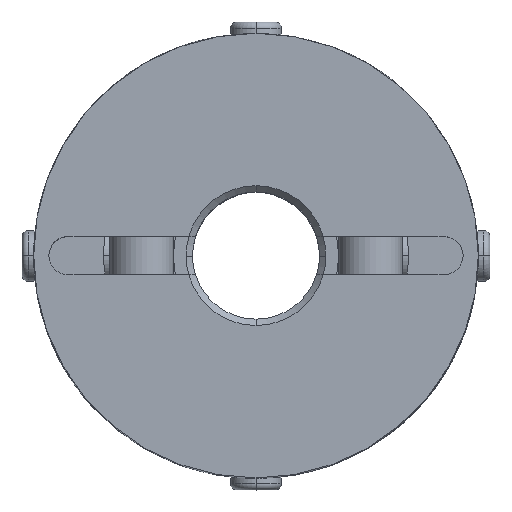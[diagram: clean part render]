
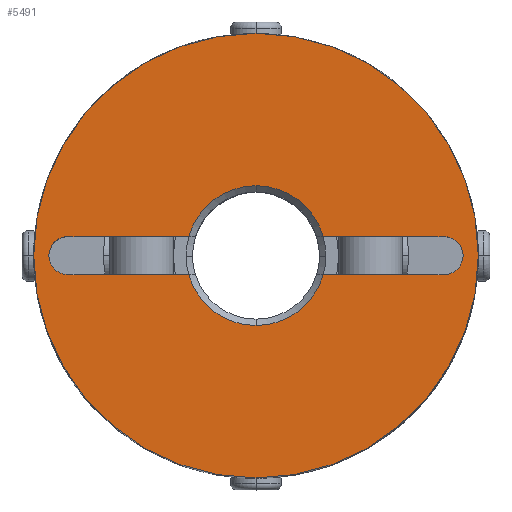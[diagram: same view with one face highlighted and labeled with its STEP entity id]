
A CAD part, top view. The second image highlights one B-rep face of the part: STEP entity #5491.
In plain terms, the highlighted planar face has unit normal (0, 0, 1).
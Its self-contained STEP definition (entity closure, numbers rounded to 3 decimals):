
#981=CARTESIAN_POINT('',(0.,17.5,17.5));
#982=VERTEX_POINT('',#981);
#989=CARTESIAN_POINT('',(0.,-17.5,17.5));
#990=VERTEX_POINT('',#989);
#991=CARTESIAN_POINT('',(0.0,0.0,17.5));
#992=DIRECTION('',(0.0,0.0,-1.0));
#993=DIRECTION('',(0.0,-1.0,0.0));
#994=AXIS2_PLACEMENT_3D('',#991,#992,#993);
#995=CIRCLE('',#994,17.5);
#996=EDGE_CURVE('',#982,#990,#995,.T.);
#1311=CARTESIAN_POINT('',(15.861,1.061,17.5));
#1312=VERTEX_POINT('',#1311);
#1328=CARTESIAN_POINT('',(14.8,-1.5,17.5));
#1329=VERTEX_POINT('',#1328);
#1336=CARTESIAN_POINT('',(14.8,0.,17.5));
#1337=DIRECTION('',(0.0,0.0,1.0));
#1338=DIRECTION('',(0.707,-0.707,0.0));
#1339=AXIS2_PLACEMENT_3D('',#1336,#1337,#1338);
#1340=CIRCLE('',#1339,1.5);
#1341=EDGE_CURVE('',#1329,#1312,#1340,.T.);
#1353=CARTESIAN_POINT('',(-15.861,-1.061,17.5));
#1354=VERTEX_POINT('',#1353);
#1370=CARTESIAN_POINT('',(-14.8,1.5,17.5));
#1371=VERTEX_POINT('',#1370);
#1378=CARTESIAN_POINT('',(-14.8,0.,17.5));
#1379=DIRECTION('',(0.0,0.0,1.0));
#1380=DIRECTION('',(-0.707,0.707,0.0));
#1381=AXIS2_PLACEMENT_3D('',#1378,#1379,#1380);
#1382=CIRCLE('',#1381,1.5);
#1383=EDGE_CURVE('',#1371,#1354,#1382,.T.);
#4396=CARTESIAN_POINT('',(0.,5.5,17.5));
#4397=VERTEX_POINT('',#4396);
#4405=CARTESIAN_POINT('',(5.292,1.5,17.5));
#4406=VERTEX_POINT('',#4405);
#4420=CARTESIAN_POINT('',(0.,0.,17.5));
#4421=DIRECTION('',(0.0,0.0,1.0));
#4422=DIRECTION('',(0.0,1.0,0.0));
#4423=AXIS2_PLACEMENT_3D('',#4420,#4421,#4422);
#4424=CIRCLE('',#4423,5.5);
#4425=EDGE_CURVE('',#4406,#4397,#4424,.T.);
#4435=CARTESIAN_POINT('',(0.,-5.5,17.5));
#4436=VERTEX_POINT('',#4435);
#4452=CARTESIAN_POINT('',(-5.292,-1.5,17.5));
#4453=VERTEX_POINT('',#4452);
#4467=CARTESIAN_POINT('',(0.,0.,17.5));
#4468=DIRECTION('',(0.0,0.0,1.0));
#4469=DIRECTION('',(0.0,-1.0,0.0));
#4470=AXIS2_PLACEMENT_3D('',#4467,#4468,#4469);
#4471=CIRCLE('',#4470,5.5);
#4472=EDGE_CURVE('',#4453,#4436,#4471,.T.);
#5207=CARTESIAN_POINT('',(14.8,1.5,17.5));
#5208=VERTEX_POINT('',#5207);
#5215=CARTESIAN_POINT('',(5.292,1.5,17.5));
#5216=DIRECTION('',(1.0,0.0,0.0));
#5217=VECTOR('',#5216,9.508);
#5218=LINE('',#5215,#5217);
#5219=EDGE_CURVE('',#4406,#5208,#5218,.T.);
#5376=CARTESIAN_POINT('',(5.292,-1.5,17.5));
#5377=VERTEX_POINT('',#5376);
#5391=CARTESIAN_POINT('',(14.8,-1.5,17.5));
#5392=DIRECTION('',(-1.0,0.0,0.0));
#5393=VECTOR('',#5392,9.508);
#5394=LINE('',#5391,#5393);
#5395=EDGE_CURVE('',#1329,#5377,#5394,.T.);
#5418=CARTESIAN_POINT('',(0.,0.,17.5));
#5419=DIRECTION('',(0.0,0.0,1.0));
#5420=DIRECTION('',(0.0,-1.0,0.0));
#5421=AXIS2_PLACEMENT_3D('',#5418,#5419,#5420);
#5422=CIRCLE('',#5421,5.5);
#5423=EDGE_CURVE('',#4436,#5377,#5422,.T.);
#5430=CARTESIAN_POINT('',(0.,-1.591,17.5));
#5431=DIRECTION('',(0.0,0.0,1.0));
#5432=DIRECTION('',(0.0,-1.0,0.0));
#5433=AXIS2_PLACEMENT_3D('',#5430,#5431,#5432);
#5434=PLANE('',#5433);
#5435=CARTESIAN_POINT('',(0.0,0.0,17.5));
#5436=DIRECTION('',(0.0,0.0,-1.0));
#5437=DIRECTION('',(0.0,-1.0,0.0));
#5438=AXIS2_PLACEMENT_3D('',#5435,#5436,#5437);
#5439=CIRCLE('',#5438,17.5);
#5440=EDGE_CURVE('',#990,#982,#5439,.T.);
#5441=ORIENTED_EDGE('',*,*,#5440,.F.);
#5442=ORIENTED_EDGE('',*,*,#996,.F.);
#5443=EDGE_LOOP('',(#5441,#5442));
#5444=FACE_OUTER_BOUND('',#5443,.T.);
#5445=ORIENTED_EDGE('',*,*,#4472,.F.);
#5446=CARTESIAN_POINT('',(-14.8,-1.5,17.5));
#5447=VERTEX_POINT('',#5446);
#5448=CARTESIAN_POINT('',(-5.292,-1.5,17.5));
#5449=DIRECTION('',(-1.0,0.0,0.0));
#5450=VECTOR('',#5449,9.508);
#5451=LINE('',#5448,#5450);
#5452=EDGE_CURVE('',#4453,#5447,#5451,.T.);
#5453=ORIENTED_EDGE('',*,*,#5452,.T.);
#5454=CARTESIAN_POINT('',(-14.8,0.,17.5));
#5455=DIRECTION('',(0.0,0.0,1.0));
#5456=DIRECTION('',(-0.707,0.707,0.0));
#5457=AXIS2_PLACEMENT_3D('',#5454,#5455,#5456);
#5458=CIRCLE('',#5457,1.5);
#5459=EDGE_CURVE('',#1354,#5447,#5458,.T.);
#5460=ORIENTED_EDGE('',*,*,#5459,.F.);
#5461=ORIENTED_EDGE('',*,*,#1383,.F.);
#5462=CARTESIAN_POINT('',(-5.292,1.5,17.5));
#5463=VERTEX_POINT('',#5462);
#5464=CARTESIAN_POINT('',(-14.8,1.5,17.5));
#5465=DIRECTION('',(1.0,0.0,0.0));
#5466=VECTOR('',#5465,9.508);
#5467=LINE('',#5464,#5466);
#5468=EDGE_CURVE('',#1371,#5463,#5467,.T.);
#5469=ORIENTED_EDGE('',*,*,#5468,.T.);
#5470=CARTESIAN_POINT('',(0.,0.,17.5));
#5471=DIRECTION('',(0.0,0.0,1.0));
#5472=DIRECTION('',(0.0,1.0,0.0));
#5473=AXIS2_PLACEMENT_3D('',#5470,#5471,#5472);
#5474=CIRCLE('',#5473,5.5);
#5475=EDGE_CURVE('',#4397,#5463,#5474,.T.);
#5476=ORIENTED_EDGE('',*,*,#5475,.F.);
#5477=ORIENTED_EDGE('',*,*,#4425,.F.);
#5478=ORIENTED_EDGE('',*,*,#5219,.T.);
#5479=CARTESIAN_POINT('',(14.8,0.,17.5));
#5480=DIRECTION('',(0.0,0.0,1.0));
#5481=DIRECTION('',(0.707,-0.707,0.0));
#5482=AXIS2_PLACEMENT_3D('',#5479,#5480,#5481);
#5483=CIRCLE('',#5482,1.5);
#5484=EDGE_CURVE('',#1312,#5208,#5483,.T.);
#5485=ORIENTED_EDGE('',*,*,#5484,.F.);
#5486=ORIENTED_EDGE('',*,*,#1341,.F.);
#5487=ORIENTED_EDGE('',*,*,#5395,.T.);
#5488=ORIENTED_EDGE('',*,*,#5423,.F.);
#5489=EDGE_LOOP('',(#5445,#5453,#5460,#5461,#5469,#5476,#5477,#5478,#5485,#5486,#5487,#5488));
#5490=FACE_BOUND('',#5489,.T.);
#5491=ADVANCED_FACE('',(#5444,#5490),#5434,.T.);
